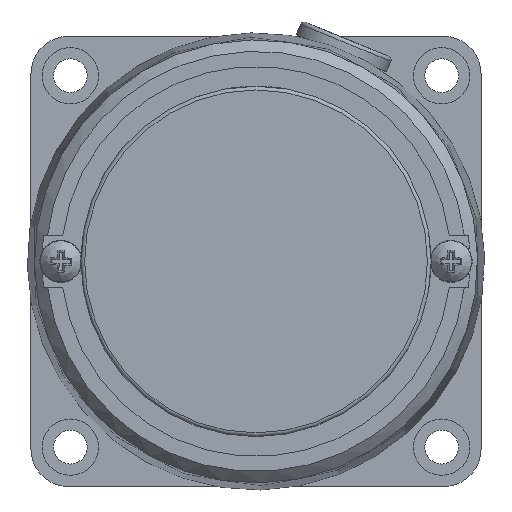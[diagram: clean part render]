
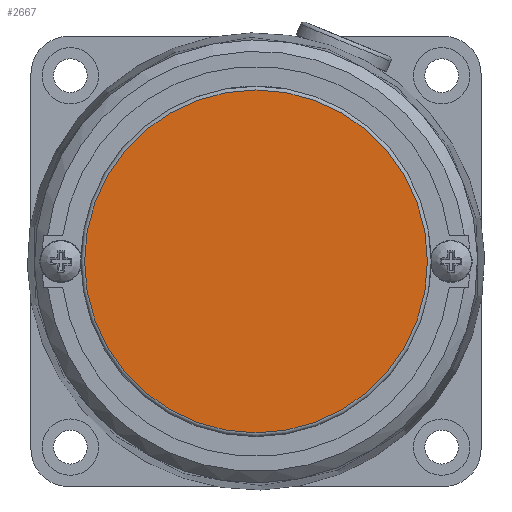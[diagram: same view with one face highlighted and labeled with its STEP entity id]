
A CAD part, left-side view. The second image highlights one B-rep face of the part: STEP entity #2667.
In plain terms, the highlighted planar face has unit normal (-1, 0, 0).
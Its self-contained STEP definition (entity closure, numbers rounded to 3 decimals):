
#57=PLANE('',#2849);
#702=FACE_OUTER_BOUND('',#859,.T.);
#859=EDGE_LOOP('',(#1873));
#1039=CIRCLE('',#2845,22.85);
#1181=VERTEX_POINT('',#3952);
#1445=EDGE_CURVE('',#1181,#1181,#1039,.T.);
#1873=ORIENTED_EDGE('',*,*,#1445,.F.);
#2667=ADVANCED_FACE('',(#702),#57,.T.);
#2845=AXIS2_PLACEMENT_3D('',#3954,#3146,#3147);
#2849=AXIS2_PLACEMENT_3D('',#4186,#3159,#3160);
#3146=DIRECTION('center_axis',(1.,0.,0.));
#3147=DIRECTION('ref_axis',(0.,0.,1.));
#3159=DIRECTION('center_axis',(-1.,0.,0.));
#3160=DIRECTION('ref_axis',(0.,-1.,0.));
#3952=CARTESIAN_POINT('',(-47.9,0.,22.85));
#3954=CARTESIAN_POINT('Origin',(-47.9,0.,0.));
#4186=CARTESIAN_POINT('Origin',(-47.9,0.,19.175));
